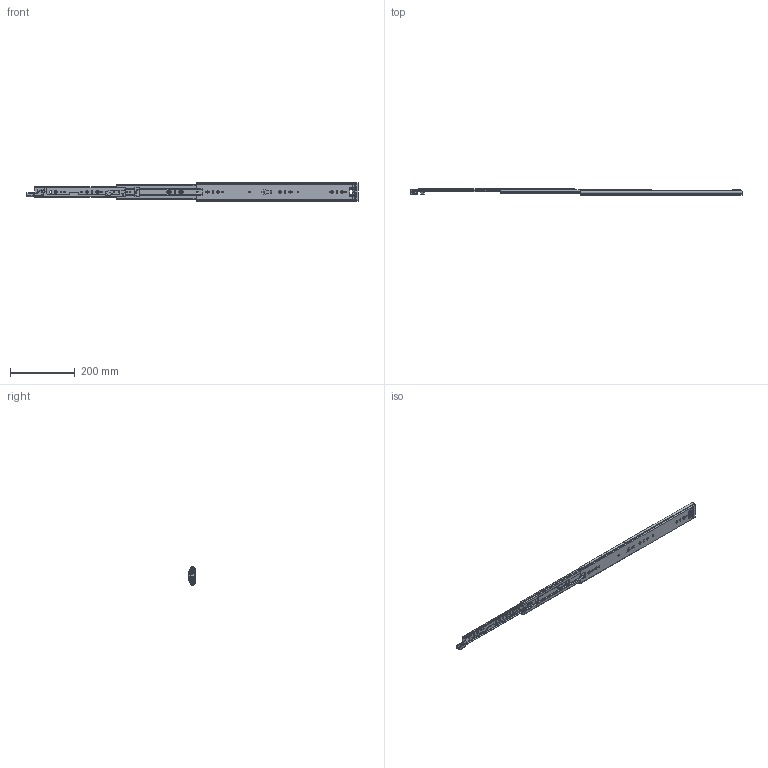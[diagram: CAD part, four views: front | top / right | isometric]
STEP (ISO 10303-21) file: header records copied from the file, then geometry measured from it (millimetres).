
FILE_DESCRIPTION((''),'2;1');
FILE_NAME('KP-57-01ZUZHUANGTU-20_ASM','2023-03-30T',('jishu015'),(''),'PRO/ENGINEER BY PARAMETRIC TECHNOLOGY CORPORATION, 2010280','PRO/ENGINEER BY PARAMETRIC TECHNOLOGY CORPORATION, 2010280','');
FILE_SCHEMA(('CONFIG_CONTROL_DESIGN'));
Length unit declared in the file: millimetre
Products named in the file (22): KP-57-01WEIKE-20; 1057WEIJIAO________________; WAIKE_______________ASM; KP-57-01ZHONGGUI-26___; ZHONGGUIPEIJIAN-20; ZHONGGUISUOKOU-11______________; KP-57-01ZHONGGUI-26____ASM; 1057XIAOZHUJIA________________; 1057-5-6GANZHU________________; 1057XIAOZHUJIA-14GE26____ASM; KP-57-01NEIGUI-22_; PJ-57-08______________; DIAOPIAN-11______________; 50XINSUOKOU-1______________; TANHUANG______________; 1053-3SBANJI122____________; JIAO11____________; KP-57-01NEIGUI-22__ASM; 1053ZHUTIAO-275___; 53-5-6GANZHU1; 1053ZHUTIAO-175MM_______________ASM; KP-57-01ZUZHUANGTU-20_ASM
Assembly tree (60 placements, depth 3):
  KP-57-01ZUZHUANGTU-20_ASM
    WAIKE_______________ASM
      KP-57-01WEIKE-20
      1057WEIJIAO________________
    KP-57-01ZHONGGUI-26____ASM
      KP-57-01ZHONGGUI-26___
      ZHONGGUIPEIJIAN-20
      ZHONGGUISUOKOU-11______________
    1057XIAOZHUJIA-14GE26____ASM
      1057XIAOZHUJIA________________
      1057-5-6GANZHU________________  x32
    KP-57-01NEIGUI-22__ASM
      KP-57-01NEIGUI-22_
      PJ-57-08______________
      DIAOPIAN-11______________
      50XINSUOKOU-1______________
      TANHUANG______________
      1053-3SBANJI122____________
      JIAO11____________
    1053ZHUTIAO-175MM_______________ASM  x2
      1053ZHUTIAO-275___
      53-5-6GANZHU1
Bounding box: 1026.92 x 19 x 57.67 mm (x, y, z)
Volume: 218154.2 mm3; surface area: 236716.4 mm2
Topology: 65 solids, 65 shells, 1904 faces, 5435 edges, 3412 vertices
Faces by surface type: plane 805, cylinder 794, sphere 107, bspline 90, cone 60, torus 25, extrusion 23
Entity records: 62892 total; most frequent: CARTESIAN_POINT 15880, ORIENTED_EDGE 9946, DIRECTION 9650, EDGE_CURVE 4973, AXIS2_PLACEMENT_3D 3330, VERTEX_POINT 3208, VECTOR 2990, LINE 2967
